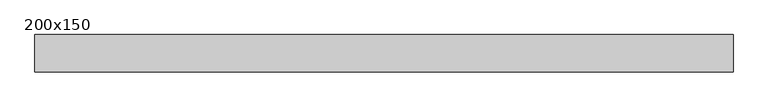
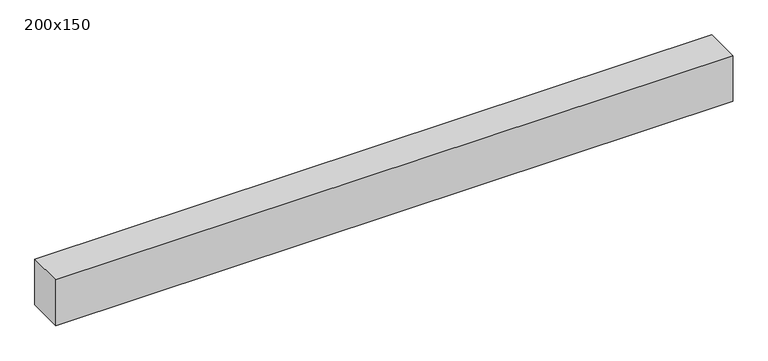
"""IFC4 building model written with IfcOpenShell, lengths in millimetres: beam geometry, Hormigón-Viga rectangular : 200x150."""

from ifc_helpers import new_model, si_unit, frame, origin, place, context, project, spatial, polyline, outline, extrude, source, transform, mapped, element, save


def beam_200x150_8261f542(model_context):
    return source(origin(), model_context, "Body", "SweptSolid", [
        extrude(outline(polyline([(1399.7, 75.0), (1399.7, -75.0), (-1399.7, -75.0), (-1399.7, 75.0), (1399.7, 75.0)])), frame((0.0, 0.0, -100.0), z_axis=(0.0, 0.0, 1.0), x_axis=(1.0, 0.0, 0.0)), (0.0, 0.0, 1.0), 200.0),
    ])


if __name__ == "__main__":
    model = new_model("IFC4")
    model_context = context("Model", 3, world=origin())
    ifc_project = project(units=[si_unit("LENGTHUNIT", "METRE", prefix="MILLI")], contexts=[model_context])
    site = spatial("IfcSite", under=ifc_project)
    building = spatial("IfcBuilding", under=site)
    placement = place(None, origin())
    beam_200x150_shape = beam_200x150_8261f542(model_context)
    element("IfcBeam", 1, ObjectType="Hormigón-Viga rectangular : 200x150", at=placement, inside=building, context=model_context, shape_type="MappedRepresentation", body=[
        mapped(beam_200x150_shape, transform((0.0, 0.0, 0.0), x_axis=(1.0, 0.0, 0.0), y_axis=(0.0, 1.0, 0.0), z_axis=(0.0, 0.0, 1.0))),
    ])
    save(model, "model.ifc")
